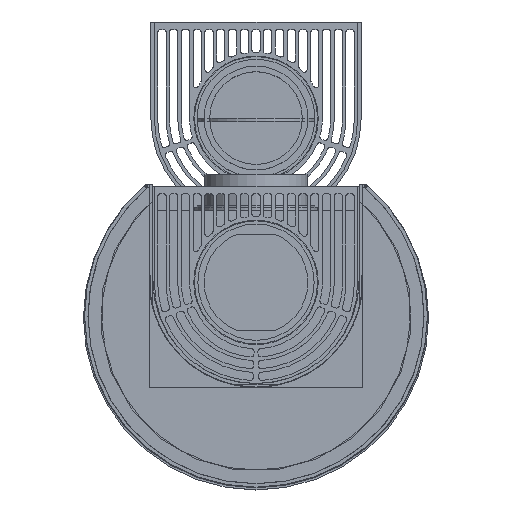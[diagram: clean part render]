
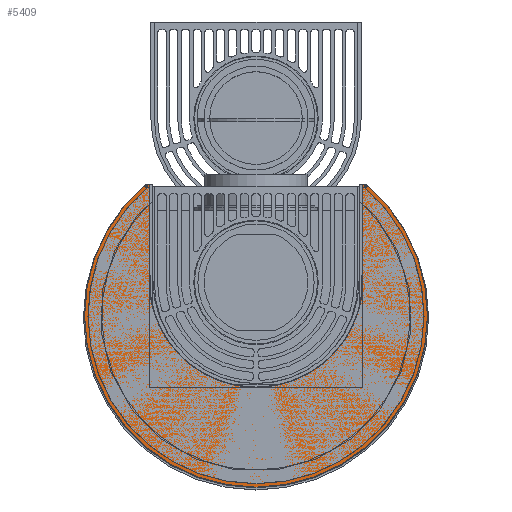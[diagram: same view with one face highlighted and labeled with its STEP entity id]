
A CAD part, top view. The second image highlights one B-rep face of the part: STEP entity #5409.
In plain terms, the highlighted planar face has unit normal (0, 0, 1).
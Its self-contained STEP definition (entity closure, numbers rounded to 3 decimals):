
#5409 = ADVANCED_FACE( '', ( #10960 ), #10961, .F. );
#10960 = FACE_OUTER_BOUND( '', #43936, .T. );
#10961 = PLANE( '', #43937 );
#43936 = EDGE_LOOP( '', ( #61343, #61344, #61345, #61346, #61347, #61348, #61349, #61350, #61351, #61352, #61353, #61354, #61355, #61356 ) );
#43937 = AXIS2_PLACEMENT_3D( '', #61357, #61358, #61359 );
#61343 = ORIENTED_EDGE( '', *, *, #64017, .F. );
#61344 = ORIENTED_EDGE( '', *, *, #65658, .F. );
#61345 = ORIENTED_EDGE( '', *, *, #66853, .F. );
#61346 = ORIENTED_EDGE( '', *, *, #61726, .F. );
#61347 = ORIENTED_EDGE( '', *, *, #63622, .F. );
#61348 = ORIENTED_EDGE( '', *, *, #67218, .F. );
#61349 = ORIENTED_EDGE( '', *, *, #66846, .T. );
#61350 = ORIENTED_EDGE( '', *, *, #66465, .T. );
#61351 = ORIENTED_EDGE( '', *, *, #66947, .T. );
#61352 = ORIENTED_EDGE( '', *, *, #67679, .T. );
#61353 = ORIENTED_EDGE( '', *, *, #67518, .T. );
#61354 = ORIENTED_EDGE( '', *, *, #67726, .T. );
#61355 = ORIENTED_EDGE( '', *, *, #66998, .F. );
#61356 = ORIENTED_EDGE( '', *, *, #67054, .F. );
#61357 = CARTESIAN_POINT( '', ( -159.022, -99.35, 1544.155 ) );
#61358 = DIRECTION( '', ( 0., 0., -1. ) );
#61359 = DIRECTION( '', ( -1., 0., 0. ) );
#61726 = EDGE_CURVE( '', #68407, #68408, #68409, .T. );
#63622 = EDGE_CURVE( '', #71663, #68407, #71664, .T. );
#64017 = EDGE_CURVE( '', #72288, #72291, #72292, .T. );
#65658 = EDGE_CURVE( '', #74709, #72288, #74710, .T. );
#66465 = EDGE_CURVE( '', #75719, #75720, #75721, .T. );
#66846 = EDGE_CURVE( '', #76176, #75719, #76177, .T. );
#66853 = EDGE_CURVE( '', #68408, #74709, #76186, .T. );
#66947 = EDGE_CURVE( '', #75720, #76298, #76299, .T. );
#66998 = EDGE_CURVE( '', #76356, #76358, #76359, .T. );
#67054 = EDGE_CURVE( '', #72291, #76356, #76420, .T. );
#67218 = EDGE_CURVE( '', #76176, #71663, #76610, .T. );
#67518 = EDGE_CURVE( '', #76921, #76924, #76926, .T. );
#67679 = EDGE_CURVE( '', #76298, #76921, #77090, .T. );
#67726 = EDGE_CURVE( '', #76924, #76358, #77136, .T. );
#68407 = VERTEX_POINT( '', #78408 );
#68408 = VERTEX_POINT( '', #78409 );
#68409 = LINE( '', #78410, #78411 );
#71663 = VERTEX_POINT( '', #87462 );
#71664 = CIRCLE( '', #87463, 1. );
#72288 = VERTEX_POINT( '', #88790 );
#72291 = VERTEX_POINT( '', #88794 );
#72292 = LINE( '', #88795, #88796 );
#74709 = VERTEX_POINT( '', #95774 );
#74710 = LINE( '', #95775, #95776 );
#75719 = VERTEX_POINT( '', #98647 );
#75720 = VERTEX_POINT( '', #98648 );
#75721 = LINE( '', #98649, #98650 );
#76176 = VERTEX_POINT( '', #99814 );
#76177 = CIRCLE( '', #99815, 1. );
#76186 = CIRCLE( '', #99830, 1. );
#76298 = VERTEX_POINT( '', #100171 );
#76299 = CIRCLE( '', #100172, 1. );
#76356 = VERTEX_POINT( '', #100329 );
#76358 = VERTEX_POINT( '', #100332 );
#76359 = CIRCLE( '', #100333, 154.5 );
#76420 = LINE( '', #100465, #100466 );
#76610 = CIRCLE( '', #100971, 248. );
#76921 = VERTEX_POINT( '', #101660 );
#76924 = VERTEX_POINT( '', #101665 );
#76926 = LINE( '', #101668, #101669 );
#77090 = LINE( '', #102002, #102003 );
#77136 = LINE( '', #102061, #102062 );
#78408 = CARTESIAN_POINT( '', ( -159.022, -98.35, 1544.155 ) );
#78409 = CARTESIAN_POINT( '', ( -155.5, -98.35, 1544.155 ) );
#78410 = CARTESIAN_POINT( '', ( -159.022, -98.35, 1544.155 ) );
#78411 = VECTOR( '', #102622, 1000. );
#87462 = CARTESIAN_POINT( '', ( -159.666, -98.585, 1544.155 ) );
#87463 = AXIS2_PLACEMENT_3D( '', #104293, #104294, #104295 );
#88790 = CARTESIAN_POINT( '', ( -154.5, -127.543, 1544.155 ) );
#88794 = CARTESIAN_POINT( '', ( -154.495, -127.539, 1544.155 ) );
#88795 = CARTESIAN_POINT( '', ( -171.726, -142.957, 1544.155 ) );
#88796 = VECTOR( '', #104647, 1000. );
#95774 = CARTESIAN_POINT( '', ( -154.5, -99.35, 1544.155 ) );
#95775 = CARTESIAN_POINT( '', ( -154.5, -99.35, 1544.155 ) );
#95776 = VECTOR( '', #106116, 1000. );
#98647 = CARTESIAN_POINT( '', ( 159.022, -98.35, 1544.155 ) );
#98648 = CARTESIAN_POINT( '', ( 155.5, -98.35, 1544.155 ) );
#98649 = CARTESIAN_POINT( '', ( 159.022, -98.35, 1544.155 ) );
#98650 = VECTOR( '', #106774, 1000. );
#99814 = CARTESIAN_POINT( '', ( 159.666, -98.585, 1544.155 ) );
#99815 = AXIS2_PLACEMENT_3D( '', #107067, #107068, #107069 );
#99830 = AXIS2_PLACEMENT_3D( '', #107073, #107074, #107075 );
#100171 = CARTESIAN_POINT( '', ( 154.5, -99.35, 1544.155 ) );
#100172 = AXIS2_PLACEMENT_3D( '', #107142, #107143, #107144 );
#100329 = CARTESIAN_POINT( '', ( -154.476, -240.05, 1544.155 ) );
#100332 = CARTESIAN_POINT( '', ( 154.476, -240.05, 1544.155 ) );
#100333 = AXIS2_PLACEMENT_3D( '', #107186, #107187, #107188 );
#100465 = CARTESIAN_POINT( '', ( -154.495, -127.539, 1544.155 ) );
#100466 = VECTOR( '', #107225, 1000. );
#100971 = AXIS2_PLACEMENT_3D( '', #107335, #107336, #107337 );
#101660 = CARTESIAN_POINT( '', ( 154.5, -127.543, 1544.155 ) );
#101665 = CARTESIAN_POINT( '', ( 154.495, -127.539, 1544.155 ) );
#101668 = CARTESIAN_POINT( '', ( 171.726, -142.957, 1544.155 ) );
#101669 = VECTOR( '', #107531, 1000. );
#102002 = CARTESIAN_POINT( '', ( 154.5, -99.35, 1544.155 ) );
#102003 = VECTOR( '', #107585, 1000. );
#102061 = CARTESIAN_POINT( '', ( 154.495, -127.539, 1544.155 ) );
#102062 = VECTOR( '', #107593, 1000. );
#102622 = DIRECTION( '', ( 1., 0., 0. ) );
#104293 = CARTESIAN_POINT( '', ( -159.022, -99.35, 1544.155 ) );
#104294 = DIRECTION( '', ( 0., 0., -1. ) );
#104295 = DIRECTION( '', ( 1., 0., 0. ) );
#104647 = DIRECTION( '', ( 0.745, 0.667, 0. ) );
#106116 = DIRECTION( '', ( 0., -1., 0. ) );
#106774 = DIRECTION( '', ( -1., 0., 0. ) );
#107067 = CARTESIAN_POINT( '', ( 159.022, -99.35, 1544.155 ) );
#107068 = DIRECTION( '', ( 0., 0., 1. ) );
#107069 = DIRECTION( '', ( -1., 0., 0. ) );
#107073 = CARTESIAN_POINT( '', ( -155.5, -99.35, 1544.155 ) );
#107074 = DIRECTION( '', ( 0., 0., -1. ) );
#107075 = DIRECTION( '', ( -1., 0., 0. ) );
#107142 = CARTESIAN_POINT( '', ( 155.5, -99.35, 1544.155 ) );
#107143 = DIRECTION( '', ( 0., 0., 1. ) );
#107144 = DIRECTION( '', ( 1., 0., 0. ) );
#107186 = CARTESIAN_POINT( '', ( 0., -237.35, 1544.155 ) );
#107187 = DIRECTION( '', ( 0., 0., 1. ) );
#107188 = DIRECTION( '', ( 1., 0., 0. ) );
#107225 = DIRECTION( '', ( 0., -1., 0. ) );
#107335 = CARTESIAN_POINT( '', ( 0., -288.35, 1544.155 ) );
#107336 = DIRECTION( '', ( 0., 0., -1. ) );
#107337 = DIRECTION( '', ( 1., 0., 0. ) );
#107531 = DIRECTION( '', ( -0.745, 0.667, 0. ) );
#107585 = DIRECTION( '', ( 0., -1., 0. ) );
#107593 = DIRECTION( '', ( 0., -1., 0. ) );
